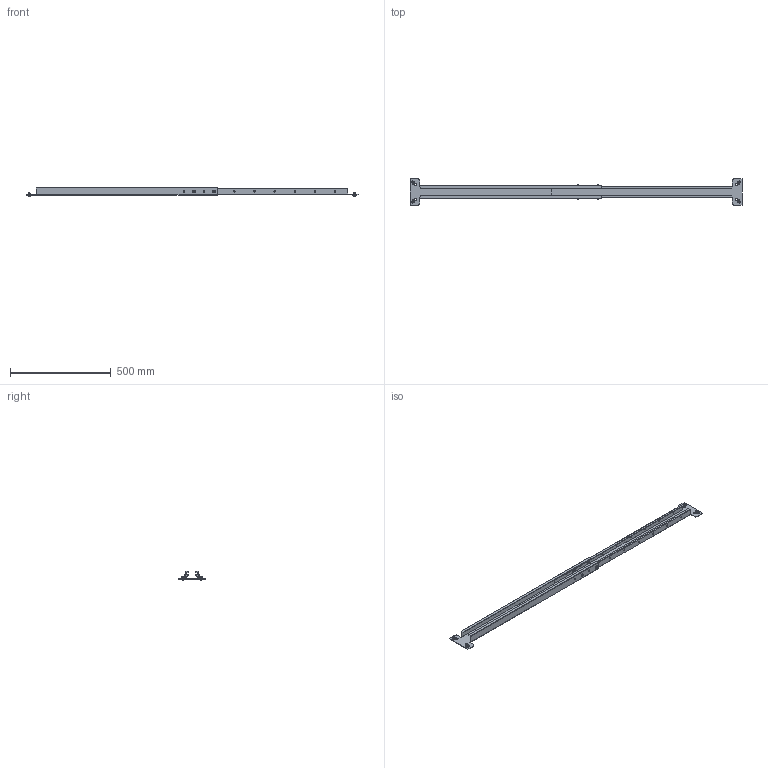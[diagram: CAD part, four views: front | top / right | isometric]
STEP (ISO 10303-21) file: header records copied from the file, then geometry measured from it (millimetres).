
FILE_DESCRIPTION(/* description */ ('Unknown'),/* implementation_level */ '2;1');
FILE_NAME(/* name */ '127.00635_03-1550mm',/* time_stamp */ '2021-11-02T12:48:25+01:00',/* author */ ('Unknown'),/* organization */ ('Unknown'),/* preprocessor_version */ 'ST-DEVELOPER v18.1',/* originating_system */ 'Solid Edge',/* authorisation */ 'Unknown');
FILE_SCHEMA (('AUTOMOTIVE_DESIGN {1 0 10303 214 3 1 1}'));
Length unit declared in the file: millimetre
Products named in the file (9): 127.00635; 060339~2; 060340~3; Sechskantmutter M6 DIN 934; Scheibe Ø6,4 DIN 125; Halbrundkopfschraube mit Innensechskant M8x12 ISO 7380-1; Scheibe Ø8,4 DIN 125 ; Nutenstein M8_montiert; Halbrundkopfschraube mit Innensechskant und Bund M6x16 ISO 7380-2
Assembly tree (26 placements, depth 2):
  127.00635
    060339~2
    060340~3
    Sechskantmutter M6 DIN 934  x4
    Scheibe Ø6,4 DIN 125  x4
    Halbrundkopfschraube mit Innensechskant M8x12 ISO 7380-1  x4
    Scheibe Ø8,4 DIN 125   x4
    Nutenstein M8_montiert  x4
    Halbrundkopfschraube mit Innensechskant und Bund M6x16 ISO 7380-2  x4
Bounding box: 1646 x 130 x 46.15 mm (x, y, z)
Volume: 709606.9 mm3; surface area: 584786.9 mm2
Topology: 26 solids, 26 shells, 796 faces, 2059 edges, 1327 vertices
Faces by surface type: plane 384, cylinder 268, torus 72, bspline 48, cone 20, sphere 4
Full cylindrical faces by diameter (mm): 6 x8, 6.4 x4, 6.647 x4, 7 x16, 8 x4, 8.5 x12, 12 x4, 13.6 x4, 14 x4, 16.8 x4
Entity records: 10787 total; most frequent: CARTESIAN_POINT 2359, DIRECTION 1406, ORIENTED_EDGE 1386, EDGE_CURVE 693, AXIS2_PLACEMENT_3D 517, VERTEX_POINT 473, EDGE_LOOP 394, FACE_BOUND 394
